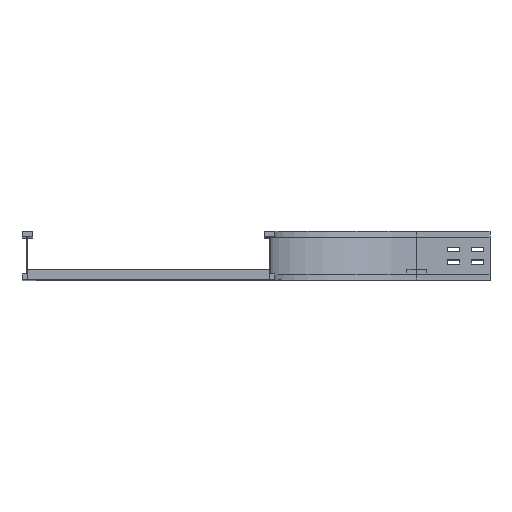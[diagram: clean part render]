
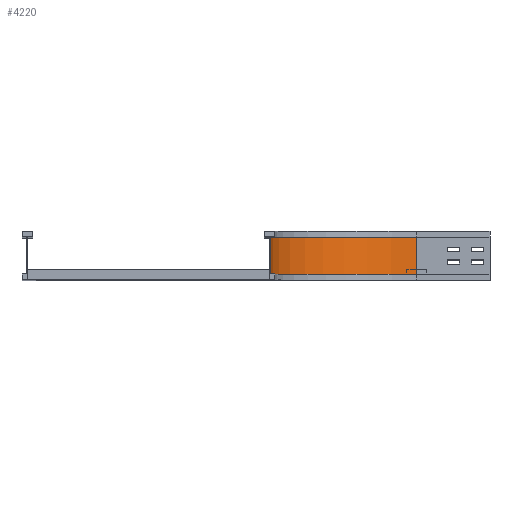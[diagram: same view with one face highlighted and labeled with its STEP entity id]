
A CAD part, top view. The second image highlights one B-rep face of the part: STEP entity #4220.
In plain terms, the highlighted cylindrical face has radius 300 mm (diameter 600 mm), a partial arc.
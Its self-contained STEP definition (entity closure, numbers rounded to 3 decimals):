
#144 = EDGE_CURVE ( 'NONE', #2063, #3423, #2903, .T. ) ;
#199 = CARTESIAN_POINT ( 'NONE',  ( 291., 0., -150. ) ) ;
#341 = DIRECTION ( 'NONE',  ( 0., 0., -1. ) ) ;
#440 = DIRECTION ( 'NONE',  ( 0., 1., 0. ) ) ;
#442 = VERTEX_POINT ( 'NONE', #517 ) ;
#447 = CARTESIAN_POINT ( 'NONE',  ( -9., 88., -150. ) ) ;
#517 = CARTESIAN_POINT ( 'NONE',  ( 291., 12., -450. ) ) ;
#537 = CARTESIAN_POINT ( 'NONE',  ( 291., 88., -150. ) ) ;
#691 = EDGE_LOOP ( 'NONE', ( #3581, #1787, #3369, #1534 ) ) ;
#1111 = CARTESIAN_POINT ( 'NONE',  ( -9., 12., -150. ) ) ;
#1523 = LINE ( 'NONE', #3513, #2840 ) ;
#1534 = ORIENTED_EDGE ( 'NONE', *, *, #2079, .T. ) ;
#1587 = DIRECTION ( 'NONE',  ( 0., -1., 0. ) ) ;
#1787 = ORIENTED_EDGE ( 'NONE', *, *, #144, .F. ) ;
#1847 = FACE_OUTER_BOUND ( 'NONE', #691, .T. ) ;
#1907 = CIRCLE ( 'NONE', #2827, 300. ) ;
#2063 = VERTEX_POINT ( 'NONE', #1111 ) ;
#2079 = EDGE_CURVE ( 'NONE', #442, #2774, #1523, .T. ) ;
#2230 = CYLINDRICAL_SURFACE ( 'NONE', #2974, 300. ) ;
#2314 = DIRECTION ( 'NONE',  ( 0., 1., 0. ) ) ;
#2340 = DIRECTION ( 'NONE',  ( 0., -1., 0. ) ) ;
#2372 = CARTESIAN_POINT ( 'NONE',  ( 291., 88., -450. ) ) ;
#2541 = CARTESIAN_POINT ( 'NONE',  ( 291., 12., -150. ) ) ;
#2598 = DIRECTION ( 'NONE',  ( 0., -1., 0. ) ) ;
#2703 = EDGE_CURVE ( 'NONE', #3423, #2774, #4015, .T. ) ;
#2774 = VERTEX_POINT ( 'NONE', #2372 ) ;
#2812 = VECTOR ( 'NONE', #2314, 1000. ) ;
#2827 = AXIS2_PLACEMENT_3D ( 'NONE', #2541, #1587, #3844 ) ;
#2840 = VECTOR ( 'NONE', #440, 1000. ) ;
#2903 = LINE ( 'NONE', #4008, #2812 ) ;
#2974 = AXIS2_PLACEMENT_3D ( 'NONE', #199, #2340, #341 ) ;
#3369 = ORIENTED_EDGE ( 'NONE', *, *, #4125, .T. ) ;
#3423 = VERTEX_POINT ( 'NONE', #447 ) ;
#3513 = CARTESIAN_POINT ( 'NONE',  ( 291., 12., -450. ) ) ;
#3581 = ORIENTED_EDGE ( 'NONE', *, *, #2703, .F. ) ;
#3844 = DIRECTION ( 'NONE',  ( -1., 0., 0. ) ) ;
#3958 = DIRECTION ( 'NONE',  ( -1., 0., 0. ) ) ;
#4008 = CARTESIAN_POINT ( 'NONE',  ( -9., 12., -150. ) ) ;
#4015 = CIRCLE ( 'NONE', #4086, 300. ) ;
#4086 = AXIS2_PLACEMENT_3D ( 'NONE', #537, #2598, #3958 ) ;
#4125 = EDGE_CURVE ( 'NONE', #2063, #442, #1907, .T. ) ;
#4220 = ADVANCED_FACE ( 'NONE', ( #1847 ), #2230, .F. ) ;
